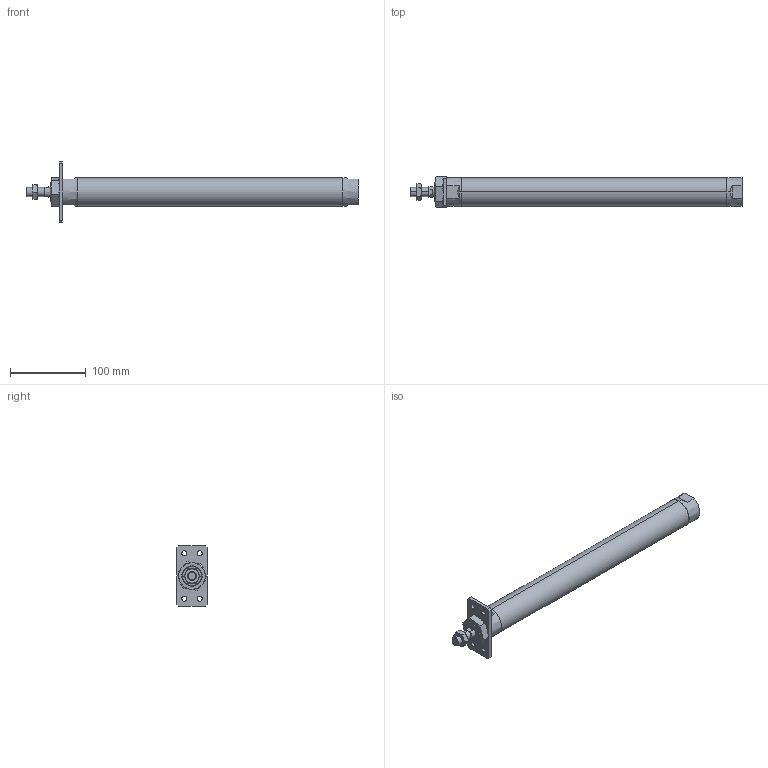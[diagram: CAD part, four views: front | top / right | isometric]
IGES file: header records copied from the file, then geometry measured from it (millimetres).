
Start section: SolidWorks IGES file using analytic representation for surfaces
Global section: file name: C:\Users\Toshiba\Desktop\JGND2-32-300-A.IGS; native system: SolidWorks 2014; preprocessor: SolidWorks 2014; author: Toshiba; date: 160804.110304; units: millimetre
Bounding box: 437 x 40 x 80 mm (x, y, z)
Surface area: 62912.4 mm2 (no closed solid volume)
Topology: 0 solids, 0 shells, 109 faces, 1980 edges, 1976 vertices
Faces by surface type: bspline 66, revolution 43
